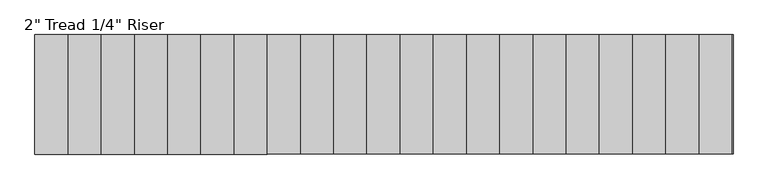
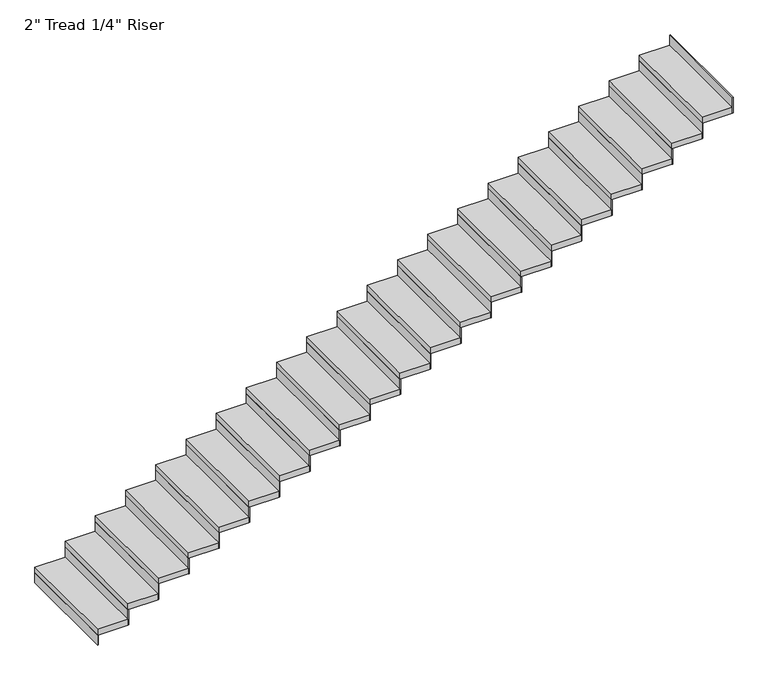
"""IFC4 building model written with IfcOpenShell, lengths in millimetres: stair flight geometry."""

import ifcopenshell
import ifcopenshell.guid

model = None  # the IFC model being written
_history = None  # IfcOwnerHistory: only IFC2X3 demands one
_inside = {}  # id of a spatial element -> (the spatial element, [elements in it])
_under = {}  # id of a project, library or spatial element -> (it, [spatial elements below it])
_declared = {}  # id of a project -> (the project, [libraries it declares])
_typed = {}  # id of a type object -> (the type object, [elements of that type])
_made_of = {}  # id of a material, layer set ... -> (it, [elements and type objects made of it])


def new_model(schema):
    """Start an empty IFC model of exactly this schema.

    Asked for "IFC4X3", IfcOpenShell would pick the latest addendum, in which some entities
    have other attributes; the version numbers below select the first issue.
    IFC2X3 requires an IfcOwnerHistory on every rooted entity: one is made here for all.
    """
    global model, _history
    if schema == "IFC4X3":
        model = ifcopenshell.file(schema_version=(4, 3, 0, 0))
    else:
        model = ifcopenshell.file(schema=schema)
    _inside.clear()
    _under.clear()
    _declared.clear()
    _typed.clear()
    _made_of.clear()
    _history = None
    if model.schema == "IFC2X3":
        org = make("IfcOrganization", Name="unknown")
        user = make(
            "IfcPersonAndOrganization",
            ThePerson=make("IfcPerson", FamilyName="unknown"),
            TheOrganization=org,
        )
        app = make(
            "IfcApplication",
            ApplicationDeveloper=org,
            Version="unknown",
            ApplicationFullName="unknown",
            ApplicationIdentifier="unknown",
        )
        _history = make(
            "IfcOwnerHistory",
            OwningUser=user,
            OwningApplication=app,
            ChangeAction="ADDED",
            CreationDate=0,
        )
    return model


def make(cls, **values):
    """One entity of the class cls with the attributes given. An attribute that is None is left unset."""
    return model.create_entity(
        cls, **{name: value for name, value in values.items() if value is not None}
    )


def rooted(cls, **values):
    """An entity with a GlobalId (a new one), such as an element, a storey or a relation."""
    return make(cls, GlobalId=ifcopenshell.guid.new(), OwnerHistory=_history, **values)


def si_unit(unit_type, name, prefix=None):
    """IfcSIUnit, for example si_unit("LENGTHUNIT", "METRE", prefix="MILLI")."""
    return make("IfcSIUnit", UnitType=unit_type, Prefix=prefix, Name=name)


def assignment(units):
    """IfcUnitAssignment: the units of a project."""
    return None if units is None else make("IfcUnitAssignment", Units=units)


def point(xyz):
    """IfcCartesianPoint."""
    return None if xyz is None else make("IfcCartesianPoint", Coordinates=xyz)


def direction(xyz):
    """IfcDirection."""
    return None if xyz is None else make("IfcDirection", DirectionRatios=xyz)


def frame(location, z_axis=None, x_axis=None):
    """IfcAxis2Placement3D, a coordinate frame: its origin and axes. An axis left out is left unset."""
    return make(
        "IfcAxis2Placement3D",
        Location=point(location),
        Axis=direction(z_axis),
        RefDirection=direction(x_axis),
    )


def origin():
    """The frame at (0, 0, 0) with its axes left unset."""
    return frame((0.0, 0.0, 0.0))


def origin_with_axes():
    """The frame at (0, 0, 0) with the z axis (0, 0, 1) and the x axis (1, 0, 0) written out."""
    return frame((0.0, 0.0, 0.0), z_axis=(0.0, 0.0, 1.0), x_axis=(1.0, 0.0, 0.0))


def place(relative_to, where):
    """IfcLocalPlacement: puts the frame where relative to a parent placement (None: the world)."""
    return make(
        "IfcLocalPlacement", PlacementRelTo=relative_to, RelativePlacement=where
    )


def context(
    kind, dimensions, precision=None, world=None, true_north=None, identifier=None
):
    """IfcGeometricRepresentationContext, for example the 3D "Model" context."""
    return make(
        "IfcGeometricRepresentationContext",
        ContextIdentifier=identifier,
        ContextType=kind,
        CoordinateSpaceDimension=dimensions,
        Precision=precision,
        WorldCoordinateSystem=world,
        TrueNorth=true_north,
    )


def project(units=None, contexts=None):
    """IfcProject with its units and contexts."""
    return rooted(
        "IfcProject",
        Name="project",
        RepresentationContexts=contexts,
        UnitsInContext=assignment(units),
    )


def spatial(cls, under=None, at=None, **own):
    """A site, building, storey or space (cls), placed at a placement, below another one or the project."""
    s = rooted(cls, ObjectPlacement=at, **own)
    if under is not None:
        _under.setdefault(under.id(), (under, []))[1].append(s)
    return s


def polyline(points):
    """IfcPolyline through the points."""
    return make("IfcPolyline", Points=[point(p) for p in points])


def outline(outer, holes=None, kind="AREA"):
    """IfcArbitraryClosedProfileDef: a profile drawn as a closed curve; with holes, ...WithVoids."""
    if holes is None:
        return make("IfcArbitraryClosedProfileDef", ProfileType=kind, OuterCurve=outer)
    return make(
        "IfcArbitraryProfileDefWithVoids",
        ProfileType=kind,
        OuterCurve=outer,
        InnerCurves=holes,
    )


def extrude(swept, where, along, depth):
    """IfcExtrudedAreaSolid: the profile swept, set in the frame where, extruded along a direction by depth."""
    return make(
        "IfcExtrudedAreaSolid",
        SweptArea=swept,
        Position=where,
        ExtrudedDirection=direction(along),
        Depth=depth,
    )


def shape(context_of_items, identifier, shape_type, items):
    """IfcShapeRepresentation: the items that make up one representation, for example the "Body"."""
    return make(
        "IfcShapeRepresentation",
        ContextOfItems=context_of_items,
        RepresentationIdentifier=identifier,
        RepresentationType=shape_type,
        Items=items,
    )


def source(mapping_origin, context_of_items, identifier, shape_type, items):
    """IfcRepresentationMap: a shape defined once, which mapped items show again and again."""
    return make(
        "IfcRepresentationMap",
        MappingOrigin=mapping_origin,
        MappedRepresentation=shape(context_of_items, identifier, shape_type, items),
    )


def transform(
    local_origin,
    x_axis=None,
    y_axis=None,
    z_axis=None,
    scale=None,
    scale2=None,
    scale3=None,
    uniform=True,
):
    """IfcCartesianTransformationOperator3D, or its non-uniform kind. x_axis, y_axis, z_axis: its Axis1, 2, 3."""
    if uniform:
        return make(
            "IfcCartesianTransformationOperator3D",
            Axis1=direction(x_axis),
            Axis2=direction(y_axis),
            LocalOrigin=point(local_origin),
            Scale=scale,
            Axis3=direction(z_axis),
        )
    return make(
        "IfcCartesianTransformationOperator3DnonUniform",
        Axis1=direction(x_axis),
        Axis2=direction(y_axis),
        LocalOrigin=point(local_origin),
        Scale=scale,
        Axis3=direction(z_axis),
        Scale2=scale2,
        Scale3=scale3,
    )


def mapped(mapping_source, mapping_target):
    """IfcMappedItem: shows the shape of a source again, moved by a transform."""
    return make(
        "IfcMappedItem", MappingSource=mapping_source, MappingTarget=mapping_target
    )


def made_of(thing, what):
    """Note that an element or type object is made of a material, layer set ...; save() writes the relation."""
    if what is not None:
        _made_of.setdefault(what.id(), (what, []))[1].append(thing)
    return thing


def element(
    cls,
    number,
    at=None,
    inside=None,
    cuts=None,
    type_object=None,
    material=None,
    context=None,
    identifier="Body",
    shape_type=None,
    held_by="IfcProductDefinitionShape",
    body=None,
    shapes=None,
    **own,
):
    """One element of the class cls, such as IfcWall. Its Tag is "e" and its number.

    at: its placement. inside: the storey or other place that contains it. cuts: it is an
    opening in that element (IfcRelVoidsElement). A single representation is given by context,
    identifier, shape_type and body (its items); several are given by shapes. held_by: the class
    of the entity that holds the representations. save() writes the other relations.
    """
    e = rooted(cls, Tag="e%d" % number, ObjectPlacement=at, **own)
    if body is not None:
        shapes = [shape(context, identifier, shape_type, body)]
    if shapes is not None:
        e.Representation = make(held_by, Representations=shapes)
    if inside is not None:
        _inside.setdefault(inside.id(), (inside, []))[1].append(e)
    if cuts is not None:
        rooted(
            "IfcRelVoidsElement", RelatingBuildingElement=cuts, RelatedOpeningElement=e
        )
    if type_object is not None:
        _typed.setdefault(type_object.id(), (type_object, []))[1].append(e)
    return made_of(e, material)


def aggregate(whole, parts):
    """IfcRelAggregates: a whole, such as a stair, and the parts it consists of."""
    return rooted("IfcRelAggregates", RelatingObject=whole, RelatedObjects=parts)


def save(model, path):
    """Write the relations noted so far, then the file.

    IfcRelAggregates (storeys below a building ...), IfcRelContainedInSpatialStructure (elements
    in a storey), IfcRelDefinesByType, IfcRelAssociatesMaterial and IfcRelDeclares: one each for
    every whole, place, type object, material and project.
    """
    for whole, parts in _under.values():
        aggregate(whole, parts)
    for where, things in _inside.values():
        rooted(
            "IfcRelContainedInSpatialStructure",
            RelatedElements=things,
            RelatingStructure=where,
        )
    for kind, things in _typed.values():
        rooted("IfcRelDefinesByType", RelatedObjects=things, RelatingType=kind)
    for what, things in _made_of.values():
        rooted("IfcRelAssociatesMaterial", RelatedObjects=things, RelatingMaterial=what)
    for by, libraries in _declared.values():
        rooted("IfcRelDeclares", RelatingContext=by, RelatedDefinitions=libraries)
    model.write(path)


def stair_flight_003d50ed(model_context):
    return source(origin(), model_context, "Body", "SweptSolid", [
        extrude(outline(polyline([(35788.2667764, -35593.481782), (35781.9167764, -35593.481782), (35781.9167764, -34679.081782), (35788.2667764, -34679.081782), (35788.2667764, -35593.481782)])), origin_with_axes(), (0.0, 0.0, 1.0), 87.7454545),
        extrude(outline(polyline([(36035.9167764, -34679.081782), (36035.9167764, -35593.481782), (35781.9167764, -35593.481782), (35781.9167764, -34679.081782), (36035.9167764, -34679.081782)])), frame((0.0, 0.0, 87.7454545), z_axis=(0.0, 0.0, 1.0), x_axis=(1.0, 0.0, 0.0)), (0.0, 0.0, 1.0), 50.8),
        extrude(outline(polyline([(36042.2667764, -35593.481782), (36035.9167764, -35593.481782), (36035.9167764, -34679.081782), (36042.2667764, -34679.081782), (36042.2667764, -35593.481782)])), frame((0.0, 0.0, 87.7454545), z_axis=(0.0, 0.0, 1.0), x_axis=(1.0, 0.0, 0.0)), (0.0, 0.0, 1.0), 138.5454545),
        extrude(outline(polyline([(36289.9167764, -34679.081782), (36289.9167764, -35593.481782), (36035.9167764, -35593.481782), (36035.9167764, -34679.081782), (36289.9167764, -34679.081782)])), frame((0.0, 0.0, 226.2909091), z_axis=(0.0, 0.0, 1.0), x_axis=(1.0, 0.0, 0.0)), (0.0, 0.0, 1.0), 50.8),
        extrude(outline(polyline([(36296.2667764, -35593.481782), (36289.9167764, -35593.481782), (36289.9167764, -34679.081782), (36296.2667764, -34679.081782), (36296.2667764, -35593.481782)])), frame((0.0, 0.0, 226.2909091), z_axis=(0.0, 0.0, 1.0), x_axis=(1.0, 0.0, 0.0)), (0.0, 0.0, 1.0), 138.5454545),
        extrude(outline(polyline([(36543.9167764, -34679.081782), (36543.9167764, -35593.481782), (36289.9167764, -35593.481782), (36289.9167764, -34679.081782), (36543.9167764, -34679.081782)])), frame((0.0, 0.0, 364.8363636), z_axis=(0.0, 0.0, 1.0), x_axis=(1.0, 0.0, 0.0)), (0.0, 0.0, 1.0), 50.8),
        extrude(outline(polyline([(36550.2667764, -35593.481782), (36543.9167764, -35593.481782), (36543.9167764, -34679.081782), (36550.2667764, -34679.081782), (36550.2667764, -35593.481782)])), frame((0.0, 0.0, 364.8363636), z_axis=(0.0, 0.0, 1.0), x_axis=(1.0, 0.0, 0.0)), (0.0, 0.0, 1.0), 138.5454545),
        extrude(outline(polyline([(36797.9167764, -34679.081782), (36797.9167764, -35593.481782), (36543.9167764, -35593.481782), (36543.9167764, -34679.081782), (36797.9167764, -34679.081782)])), frame((0.0, 0.0, 503.3818182), z_axis=(0.0, 0.0, 1.0), x_axis=(1.0, 0.0, 0.0)), (0.0, 0.0, 1.0), 50.8),
        extrude(outline(polyline([(36804.2667764, -35593.481782), (36797.9167764, -35593.481782), (36797.9167764, -34679.081782), (36804.2667764, -34679.081782), (36804.2667764, -35593.481782)])), frame((0.0, 0.0, 503.3818182), z_axis=(0.0, 0.0, 1.0), x_axis=(1.0, 0.0, 0.0)), (0.0, 0.0, 1.0), 138.5454545),
        extrude(outline(polyline([(37051.9167764, -34679.081782), (37051.9167764, -35593.481782), (36797.9167764, -35593.481782), (36797.9167764, -34679.081782), (37051.9167764, -34679.081782)])), frame((0.0, 0.0, 641.9272727), z_axis=(0.0, 0.0, 1.0), x_axis=(1.0, 0.0, 0.0)), (0.0, 0.0, 1.0), 50.8),
        extrude(outline(polyline([(37058.2667764, -35593.481782), (37051.9167764, -35593.481782), (37051.9167764, -34679.081782), (37058.2667764, -34679.081782), (37058.2667764, -35593.481782)])), frame((0.0, 0.0, 641.9272727), z_axis=(0.0, 0.0, 1.0), x_axis=(1.0, 0.0, 0.0)), (0.0, 0.0, 1.0), 138.5454545),
        extrude(outline(polyline([(37305.9167764, -34679.081782), (37305.9167764, -35593.481782), (37051.9167764, -35593.481782), (37051.9167764, -34679.081782), (37305.9167764, -34679.081782)])), frame((0.0, 0.0, 780.4727273), z_axis=(0.0, 0.0, 1.0), x_axis=(1.0, 0.0, 0.0)), (0.0, 0.0, 1.0), 50.8),
        extrude(outline(polyline([(37312.2667764, -35593.481782), (37305.9167764, -35593.481782), (37305.9167764, -34679.081782), (37312.2667764, -34679.081782), (37312.2667764, -35593.481782)])), frame((0.0, 0.0, 780.4727273), z_axis=(0.0, 0.0, 1.0), x_axis=(1.0, 0.0, 0.0)), (0.0, 0.0, 1.0), 138.5454545),
        extrude(outline(polyline([(37559.9167764, -34679.081782), (37559.9167764, -35593.481782), (37305.9167764, -35593.481782), (37305.9167764, -34679.081782), (37559.9167764, -34679.081782)])), frame((0.0, 0.0, 919.0181818), z_axis=(0.0, 0.0, 1.0), x_axis=(1.0, 0.0, 0.0)), (0.0, 0.0, 1.0), 50.8),
        extrude(outline(polyline([(37566.2667764, -35593.481782), (37559.9167764, -35593.481782), (37559.9167764, -34679.081782), (37566.2667764, -34679.081782), (37566.2667764, -35593.481782)])), frame((0.0, 0.0, 919.0181818), z_axis=(0.0, 0.0, 1.0), x_axis=(1.0, 0.0, 0.0)), (0.0, 0.0, 1.0), 138.5454545),
        extrude(outline(polyline([(37813.9167764, -34679.081782), (37813.9167764, -35593.481782), (37559.9167764, -35593.481782), (37559.9167764, -34679.081782), (37813.9167764, -34679.081782)])), frame((0.0, 0.0, 1057.5636364), z_axis=(0.0, 0.0, 1.0), x_axis=(1.0, 0.0, 0.0)), (0.0, 0.0, 1.0), 50.8),
        extrude(outline(polyline([(37820.2667764, -35593.481782), (37813.9167764, -35593.481782), (37813.9167764, -34679.081782), (37820.2667764, -34679.081782), (37820.2667764, -35593.481782)])), frame((0.0, 0.0, 1057.5636364), z_axis=(0.0, 0.0, 1.0), x_axis=(1.0, 0.0, 0.0)), (0.0, 0.0, 1.0), 138.5454545),
        extrude(outline(polyline([(38067.9167764, -34679.081782), (38067.9167764, -35593.481782), (37813.9167764, -35593.481782), (37813.9167764, -34679.081782), (38067.9167764, -34679.081782)])), frame((0.0, 0.0, 1196.1090909), z_axis=(0.0, 0.0, 1.0), x_axis=(1.0, 0.0, 0.0)), (0.0, 0.0, 1.0), 50.8),
        extrude(outline(polyline([(38074.2667764, -35593.481782), (38067.9167764, -35593.481782), (38067.9167764, -34679.081782), (38074.2667764, -34679.081782), (38074.2667764, -35593.481782)])), frame((0.0, 0.0, 1196.1090909), z_axis=(0.0, 0.0, 1.0), x_axis=(1.0, 0.0, 0.0)), (0.0, 0.0, 1.0), 138.5454545),
        extrude(outline(polyline([(38321.9167764, -34679.081782), (38321.9167764, -35593.481782), (38067.9167764, -35593.481782), (38067.9167764, -34679.081782), (38321.9167764, -34679.081782)])), frame((0.0, 0.0, 1334.6545455), z_axis=(0.0, 0.0, 1.0), x_axis=(1.0, 0.0, 0.0)), (0.0, 0.0, 1.0), 50.8),
        extrude(outline(polyline([(38328.2667764, -35593.481782), (38321.9167764, -35593.481782), (38321.9167764, -34679.081782), (38328.2667764, -34679.081782), (38328.2667764, -35593.481782)])), frame((0.0, 0.0, 1334.6545455), z_axis=(0.0, 0.0, 1.0), x_axis=(1.0, 0.0, 0.0)), (0.0, 0.0, 1.0), 138.5454545),
        extrude(outline(polyline([(38575.9167764, -34679.081782), (38575.9167764, -35593.481782), (38321.9167764, -35593.481782), (38321.9167764, -34679.081782), (38575.9167764, -34679.081782)])), frame((0.0, 0.0, 1473.2), z_axis=(0.0, 0.0, 1.0), x_axis=(1.0, 0.0, 0.0)), (0.0, 0.0, 1.0), 50.8),
        extrude(outline(polyline([(38582.2667764, -35593.481782), (38575.9167764, -35593.481782), (38575.9167764, -34679.081782), (38582.2667764, -34679.081782), (38582.2667764, -35593.481782)])), frame((0.0, 0.0, 1473.2), z_axis=(0.0, 0.0, 1.0), x_axis=(1.0, 0.0, 0.0)), (0.0, 0.0, 1.0), 138.5454545),
        extrude(outline(polyline([(38829.9167764, -34679.081782), (38829.9167764, -35593.481782), (38575.9167764, -35593.481782), (38575.9167764, -34679.081782), (38829.9167764, -34679.081782)])), frame((0.0, 0.0, 1611.7454545), z_axis=(0.0, 0.0, 1.0), x_axis=(1.0, 0.0, 0.0)), (0.0, 0.0, 1.0), 50.8),
        extrude(outline(polyline([(38836.2667764, -35593.481782), (38829.9167764, -35593.481782), (38829.9167764, -34679.081782), (38836.2667764, -34679.081782), (38836.2667764, -35593.481782)])), frame((0.0, 0.0, 1611.7454545), z_axis=(0.0, 0.0, 1.0), x_axis=(1.0, 0.0, 0.0)), (0.0, 0.0, 1.0), 138.5454545),
        extrude(outline(polyline([(39083.9167764, -34679.081782), (39083.9167764, -35593.481782), (38829.9167764, -35593.481782), (38829.9167764, -34679.081782), (39083.9167764, -34679.081782)])), frame((0.0, 0.0, 1750.2909091), z_axis=(0.0, 0.0, 1.0), x_axis=(1.0, 0.0, 0.0)), (0.0, 0.0, 1.0), 50.8),
        extrude(outline(polyline([(39090.2667764, -35593.481782), (39083.9167764, -35593.481782), (39083.9167764, -34679.081782), (39090.2667764, -34679.081782), (39090.2667764, -35593.481782)])), frame((0.0, 0.0, 1750.2909091), z_axis=(0.0, 0.0, 1.0), x_axis=(1.0, 0.0, 0.0)), (0.0, 0.0, 1.0), 138.5454545),
        extrude(outline(polyline([(39337.9167764, -34679.081782), (39337.9167764, -35593.481782), (39083.9167764, -35593.481782), (39083.9167764, -34679.081782), (39337.9167764, -34679.081782)])), frame((0.0, 0.0, 1888.8363636), z_axis=(0.0, 0.0, 1.0), x_axis=(1.0, 0.0, 0.0)), (0.0, 0.0, 1.0), 50.8),
        extrude(outline(polyline([(39344.2667764, -35593.481782), (39337.9167764, -35593.481782), (39337.9167764, -34679.081782), (39344.2667764, -34679.081782), (39344.2667764, -35593.481782)])), frame((0.0, 0.0, 1888.8363636), z_axis=(0.0, 0.0, 1.0), x_axis=(1.0, 0.0, 0.0)), (0.0, 0.0, 1.0), 138.5454545),
        extrude(outline(polyline([(39591.9167764, -34679.081782), (39591.9167764, -35593.481782), (39337.9167764, -35593.481782), (39337.9167764, -34679.081782), (39591.9167764, -34679.081782)])), frame((0.0, 0.0, 2027.3818182), z_axis=(0.0, 0.0, 1.0), x_axis=(1.0, 0.0, 0.0)), (0.0, 0.0, 1.0), 50.8),
        extrude(outline(polyline([(39598.2667764, -35593.481782), (39591.9167764, -35593.481782), (39591.9167764, -34679.081782), (39598.2667764, -34679.081782), (39598.2667764, -35593.481782)])), frame((0.0, 0.0, 2027.3818182), z_axis=(0.0, 0.0, 1.0), x_axis=(1.0, 0.0, 0.0)), (0.0, 0.0, 1.0), 138.5454545),
        extrude(outline(polyline([(39845.9167764, -34679.081782), (39845.9167764, -35593.481782), (39591.9167764, -35593.481782), (39591.9167764, -34679.081782), (39845.9167764, -34679.081782)])), frame((0.0, 0.0, 2165.9272727), z_axis=(0.0, 0.0, 1.0), x_axis=(1.0, 0.0, 0.0)), (0.0, 0.0, 1.0), 50.8),
        extrude(outline(polyline([(39852.2667764, -35593.481782), (39845.9167764, -35593.481782), (39845.9167764, -34679.081782), (39852.2667764, -34679.081782), (39852.2667764, -35593.481782)])), frame((0.0, 0.0, 2165.9272727), z_axis=(0.0, 0.0, 1.0), x_axis=(1.0, 0.0, 0.0)), (0.0, 0.0, 1.0), 138.5454545),
        extrude(outline(polyline([(40099.9167764, -34679.081782), (40099.9167764, -35593.481782), (39845.9167764, -35593.481782), (39845.9167764, -34679.081782), (40099.9167764, -34679.081782)])), frame((0.0, 0.0, 2304.4727273), z_axis=(0.0, 0.0, 1.0), x_axis=(1.0, 0.0, 0.0)), (0.0, 0.0, 1.0), 50.8),
        extrude(outline(polyline([(40106.2667764, -35593.481782), (40099.9167764, -35593.481782), (40099.9167764, -34679.081782), (40106.2667764, -34679.081782), (40106.2667764, -35593.481782)])), frame((0.0, 0.0, 2304.4727273), z_axis=(0.0, 0.0, 1.0), x_axis=(1.0, 0.0, 0.0)), (0.0, 0.0, 1.0), 138.5454545),
        extrude(outline(polyline([(40353.9167764, -34679.081782), (40353.9167764, -35593.481782), (40099.9167764, -35593.481782), (40099.9167764, -34679.081782), (40353.9167764, -34679.081782)])), frame((0.0, 0.0, 2443.0181818), z_axis=(0.0, 0.0, 1.0), x_axis=(1.0, 0.0, 0.0)), (0.0, 0.0, 1.0), 50.8),
        extrude(outline(polyline([(40360.2667764, -35593.481782), (40353.9167764, -35593.481782), (40353.9167764, -34679.081782), (40360.2667764, -34679.081782), (40360.2667764, -35593.481782)])), frame((0.0, 0.0, 2443.0181818), z_axis=(0.0, 0.0, 1.0), x_axis=(1.0, 0.0, 0.0)), (0.0, 0.0, 1.0), 138.5454545),
        extrude(outline(polyline([(40607.9167764, -34679.081782), (40607.9167764, -35593.481782), (40353.9167764, -35593.481782), (40353.9167764, -34679.081782), (40607.9167764, -34679.081782)])), frame((0.0, 0.0, 2581.5636364), z_axis=(0.0, 0.0, 1.0), x_axis=(1.0, 0.0, 0.0)), (0.0, 0.0, 1.0), 50.8),
        extrude(outline(polyline([(40614.2667764, -35593.481782), (40607.9167764, -35593.481782), (40607.9167764, -34679.081782), (40614.2667764, -34679.081782), (40614.2667764, -35593.481782)])), frame((0.0, 0.0, 2581.5636364), z_axis=(0.0, 0.0, 1.0), x_axis=(1.0, 0.0, 0.0)), (0.0, 0.0, 1.0), 138.5454545),
        extrude(outline(polyline([(40861.9167764, -34679.081782), (40861.9167764, -35593.481782), (40607.9167764, -35593.481782), (40607.9167764, -34679.081782), (40861.9167764, -34679.081782)])), frame((0.0, 0.0, 2720.1090909), z_axis=(0.0, 0.0, 1.0), x_axis=(1.0, 0.0, 0.0)), (0.0, 0.0, 1.0), 50.8),
        extrude(outline(polyline([(40868.2667764, -35593.481782), (40861.9167764, -35593.481782), (40861.9167764, -34679.081782), (40868.2667764, -34679.081782), (40868.2667764, -35593.481782)])), frame((0.0, 0.0, 2720.1090909), z_axis=(0.0, 0.0, 1.0), x_axis=(1.0, 0.0, 0.0)), (0.0, 0.0, 1.0), 138.5454545),
        extrude(outline(polyline([(41122.2667764, -35593.481782), (41115.9167764, -35593.481782), (41115.9167764, -34679.081782), (41122.2667764, -34679.081782), (41122.2667764, -35593.481782)])), frame((0.0, 0.0, 2858.6545455), z_axis=(0.0, 0.0, 1.0), x_axis=(1.0, 0.0, 0.0)), (0.0, 0.0, 1.0), 138.5454545),
        extrude(outline(polyline([(41115.9167764, -34679.081782), (41115.9167764, -35593.481782), (40861.9167764, -35593.481782), (40861.9167764, -34679.081782), (41115.9167764, -34679.081782)])), frame((0.0, 0.0, 2858.6545455), z_axis=(0.0, 0.0, 1.0), x_axis=(1.0, 0.0, 0.0)), (0.0, 0.0, 1.0), 50.8),
    ])


if __name__ == "__main__":
    model = new_model("IFC4")
    model_context = context("Model", 3, world=origin())
    ifc_project = project(units=[si_unit("LENGTHUNIT", "METRE", prefix="MILLI")], contexts=[model_context])
    site = spatial("IfcSite", under=ifc_project)
    building = spatial("IfcBuilding", under=site)
    placement = place(None, origin())
    stair_flight_shape = stair_flight_003d50ed(model_context)
    element("IfcStairFlight", 1, ObjectType="2\" Tread 1/4\" Riser", at=placement, inside=building, context=model_context, shape_type="MappedRepresentation", body=[
        mapped(stair_flight_shape, transform((0.0, 0.0, 0.0), x_axis=(1.0, 0.0, 0.0), y_axis=(0.0, 1.0, 0.0), z_axis=(0.0, 0.0, 1.0))),
    ])
    save(model, "model.ifc")
